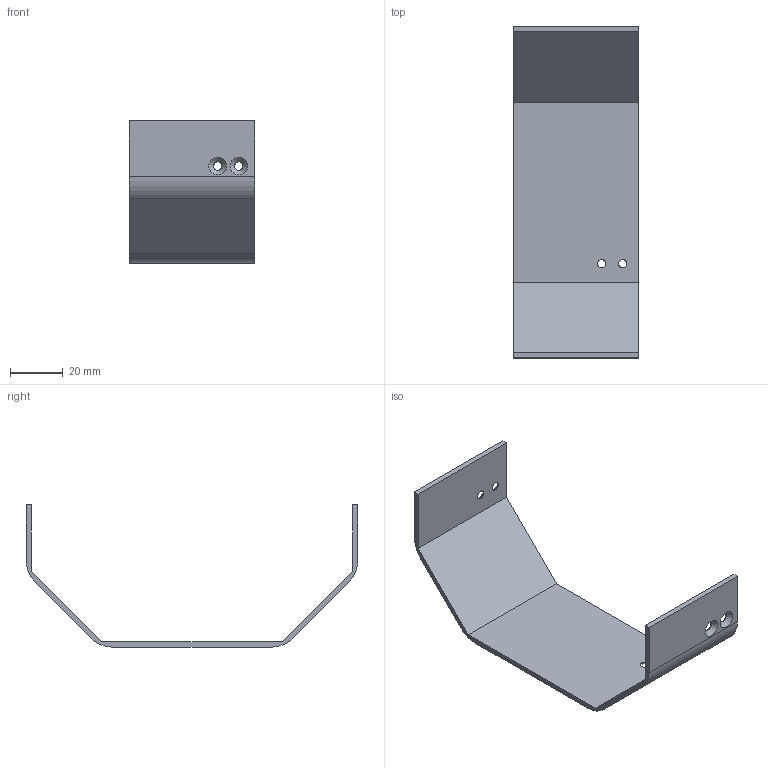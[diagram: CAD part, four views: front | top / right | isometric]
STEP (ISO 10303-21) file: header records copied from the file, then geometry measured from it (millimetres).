
FILE_DESCRIPTION(/* description */ ('STEP AP242 Edition 2','CAx-IF Rec.Pracs.---Representation and Presentation of Product Manufacturing Information (PMI)---4.0---2014-10-13','CAx-IF Rec.Pracs.---3D Tessellated Geometry---0.4---2014-09-14','2;1','CAx-IF Rec.Pracs.---User Defined Attributes---1.5---2016-08-15'),/* implementation_level */ '2;1');
FILE_NAME(/* name */ 'Assy_ForMFG - KC-D-107R_R_Cover',/* time_stamp */ '2026-05-15T19:56:24Z',/* author */ (''),/* organization */ (''),/* preprocessor_version */ 'ST-DEVELOPER v20',/* originating_system */ 'ONSHAPE BY PTC INC, 1.215',/* authorisation */ ' ');
FILE_SCHEMA (('AP242_MANAGED_MODEL_BASED_3D_ENGINEERING_MIM_LF { 1 0 10303 442 3 1 4 }'));
Length unit declared in the file: metre
Products named in the file (1): KC-D-107R_R_Cover
Bounding box: 47.5 x 126 x 54 mm (x, y, z)
Volume: 17986 mm3; surface area: 19643.6 mm2
Topology: 1 solids, 1 shells, 30 faces, 88 edges, 58 vertices
Faces by surface type: plane 14, cylinder 10, cone 6
Full cylindrical faces by diameter (mm): 3.2 x6
Entity records: 938 total; most frequent: CARTESIAN_POINT 161, DIRECTION 156, ORIENTED_EDGE 140, EDGE_CURVE 70, AXIS2_PLACEMENT_3D 57, VERTEX_POINT 52, EDGE_LOOP 52, FACE_BOUND 52
